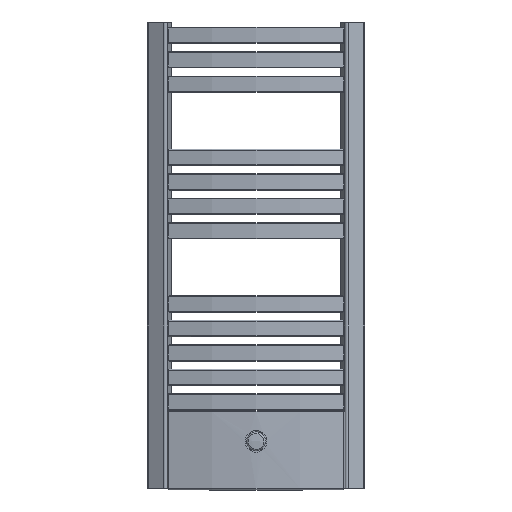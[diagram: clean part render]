
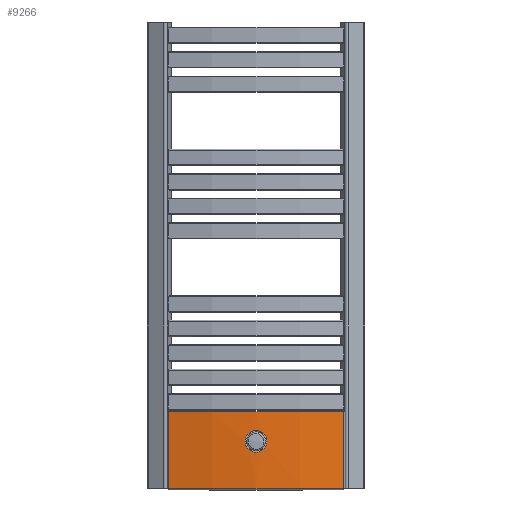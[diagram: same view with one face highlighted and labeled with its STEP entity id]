
A CAD part, front view. The second image highlights one B-rep face of the part: STEP entity #9266.
In plain terms, the highlighted cylindrical face has radius 602.649 mm (diameter 1205.3 mm), a partial arc.
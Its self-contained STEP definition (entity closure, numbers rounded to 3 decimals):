
#8084=CARTESIAN_POINT('',(-19.284,-53.248,87.5));
#8085=VERTEX_POINT('',#8084);
#8086=CARTESIAN_POINT('',(-19.284,-53.248,87.5));
#8087=CARTESIAN_POINT('',(-19.284,-53.248,88.711));
#8088=CARTESIAN_POINT('',(-19.168,-53.251,89.963));
#8089=CARTESIAN_POINT('',(-18.681,-53.267,92.455));
#8090=CARTESIAN_POINT('',(-18.309,-53.278,93.694));
#8091=CARTESIAN_POINT('',(-17.327,-53.307,96.071));
#8092=CARTESIAN_POINT('',(-16.715,-53.325,97.21));
#8093=CARTESIAN_POINT('',(-15.301,-53.362,99.318));
#8094=CARTESIAN_POINT('',(-14.499,-53.382,100.287));
#8095=CARTESIAN_POINT('',(-12.788,-53.421,102.002));
#8096=CARTESIAN_POINT('',(-11.821,-53.441,102.807));
#8097=CARTESIAN_POINT('',(-9.714,-53.479,104.227));
#8098=CARTESIAN_POINT('',(-8.575,-53.496,104.841));
#8099=CARTESIAN_POINT('',(-6.198,-53.526,105.828));
#8100=CARTESIAN_POINT('',(-4.958,-53.537,106.201));
#8101=CARTESIAN_POINT('',(-2.465,-53.553,106.69));
#8102=CARTESIAN_POINT('',(-1.212,-53.556,106.807));
#8103=CARTESIAN_POINT('',(1.212,-53.556,106.807));
#8104=CARTESIAN_POINT('',(2.465,-53.553,106.691));
#8105=CARTESIAN_POINT('',(4.957,-53.537,106.201));
#8106=CARTESIAN_POINT('',(6.196,-53.526,105.828));
#8107=CARTESIAN_POINT('',(8.572,-53.496,104.842));
#8108=CARTESIAN_POINT('',(9.711,-53.479,104.228));
#8109=CARTESIAN_POINT('',(11.818,-53.441,102.809));
#8110=CARTESIAN_POINT('',(12.785,-53.421,102.004));
#8111=CARTESIAN_POINT('',(14.496,-53.383,100.29));
#8112=CARTESIAN_POINT('',(15.299,-53.362,99.321));
#8113=CARTESIAN_POINT('',(16.714,-53.325,97.213));
#8114=CARTESIAN_POINT('',(17.326,-53.307,96.073));
#8115=CARTESIAN_POINT('',(18.309,-53.278,93.696));
#8116=CARTESIAN_POINT('',(18.68,-53.267,92.456));
#8117=CARTESIAN_POINT('',(19.168,-53.251,89.964));
#8118=CARTESIAN_POINT('',(19.284,-53.248,88.711));
#8119=CARTESIAN_POINT('',(19.284,-53.248,86.289));
#8120=CARTESIAN_POINT('',(19.168,-53.251,85.036));
#8121=CARTESIAN_POINT('',(18.68,-53.267,82.544));
#8122=CARTESIAN_POINT('',(18.309,-53.278,81.304));
#8123=CARTESIAN_POINT('',(17.326,-53.307,78.927));
#8124=CARTESIAN_POINT('',(16.714,-53.325,77.787));
#8125=CARTESIAN_POINT('',(15.299,-53.362,75.679));
#8126=CARTESIAN_POINT('',(14.496,-53.383,74.71));
#8127=CARTESIAN_POINT('',(12.785,-53.421,72.996));
#8128=CARTESIAN_POINT('',(11.818,-53.441,72.191));
#8129=CARTESIAN_POINT('',(9.711,-53.479,70.772));
#8130=CARTESIAN_POINT('',(8.572,-53.496,70.158));
#8131=CARTESIAN_POINT('',(6.196,-53.526,69.172));
#8132=CARTESIAN_POINT('',(4.957,-53.537,68.799));
#8133=CARTESIAN_POINT('',(2.465,-53.553,68.309));
#8134=CARTESIAN_POINT('',(1.212,-53.556,68.193));
#8135=CARTESIAN_POINT('',(-1.212,-53.556,68.193));
#8136=CARTESIAN_POINT('',(-2.465,-53.553,68.309));
#8137=CARTESIAN_POINT('',(-4.957,-53.537,68.799));
#8138=CARTESIAN_POINT('',(-6.196,-53.526,69.172));
#8139=CARTESIAN_POINT('',(-8.572,-53.496,70.158));
#8140=CARTESIAN_POINT('',(-9.711,-53.479,70.772));
#8141=CARTESIAN_POINT('',(-11.818,-53.441,72.191));
#8142=CARTESIAN_POINT('',(-12.785,-53.421,72.996));
#8143=CARTESIAN_POINT('',(-14.496,-53.383,74.71));
#8144=CARTESIAN_POINT('',(-15.299,-53.362,75.679));
#8145=CARTESIAN_POINT('',(-16.714,-53.325,77.787));
#8146=CARTESIAN_POINT('',(-17.326,-53.307,78.927));
#8147=CARTESIAN_POINT('',(-18.309,-53.278,81.304));
#8148=CARTESIAN_POINT('',(-18.68,-53.267,82.544));
#8149=CARTESIAN_POINT('',(-19.168,-53.251,85.036));
#8150=CARTESIAN_POINT('',(-19.284,-53.248,86.289));
#8151=CARTESIAN_POINT('',(-19.284,-53.248,87.5));
#8152=B_SPLINE_CURVE_WITH_KNOTS('',3,(#8086,#8087,#8088,#8089,#8090,#8091,#8092,#8093,#8094,#8095,#8096,#8097,#8098,#8099,#8100,#8101,#8102,#8103,#8104,#8105,#8106,#8107,#8108,#8109,#8110,#8111,#8112,#8113,#8114,#8115,#8116,#8117,#8118,#8119,#8120,#8121,#8122,#8123,#8124,#8125,#8126,#8127,#8128,#8129,#8130,#8131,#8132,#8133,#8134,#8135,#8136,#8137,#8138,#8139,#8140,#8141,#8142,#8143,#8144,#8145,#8146,#8147,#8148,#8149,#8150,#8151),.UNSPECIFIED.,.T.,.U.,(4,2,2,2,2,2,2,2,2,2,2,2,2,2,2,2,2,2,2,2,2,2,2,2,2,2,2,2,2,2,2,2,4),(0.0,0.363,0.727,1.09,1.453,1.817,2.18,2.544,2.908,3.271,3.634,3.998,4.361,4.725,5.088,5.452,5.815,6.178,6.542,6.905,7.269,7.632,7.996,8.359,8.723,9.086,9.449,9.813,10.176,10.54,10.903,11.267,11.63),.UNSPECIFIED.);
#8153=EDGE_CURVE('',#8085,#8085,#8152,.T.);
#9222=CARTESIAN_POINT('',(0.,549.092,2.));
#9223=DIRECTION('',(0.,0.,1.0));
#9224=DIRECTION('',(0.268,-0.963,0.));
#9225=AXIS2_PLACEMENT_3D('',#9222,#9223,#9224);
#9226=CYLINDRICAL_SURFACE('',#9225,602.649);
#9227=CARTESIAN_POINT('',(161.768,-31.439,0.));
#9228=VERTEX_POINT('',#9227);
#9229=CARTESIAN_POINT('',(-161.768,-31.439,0.));
#9230=VERTEX_POINT('',#9229);
#9231=CARTESIAN_POINT('',(0.,549.092,0.));
#9232=DIRECTION('',(0.0,0.0,-1.0));
#9233=DIRECTION('',(0.0,-1.0,0.0));
#9234=AXIS2_PLACEMENT_3D('',#9231,#9232,#9233);
#9235=CIRCLE('',#9234,602.649);
#9236=EDGE_CURVE('',#9228,#9230,#9235,.T.);
#9237=ORIENTED_EDGE('',*,*,#9236,.F.);
#9238=CARTESIAN_POINT('',(161.768,-31.439,142.));
#9239=VERTEX_POINT('',#9238);
#9240=CARTESIAN_POINT('',(161.768,-31.439,0.));
#9241=DIRECTION('',(0.0,0.0,1.0));
#9242=VECTOR('',#9241,142.);
#9243=LINE('',#9240,#9242);
#9244=EDGE_CURVE('',#9228,#9239,#9243,.T.);
#9245=ORIENTED_EDGE('',*,*,#9244,.T.);
#9246=CARTESIAN_POINT('',(-161.768,-31.439,142.));
#9247=VERTEX_POINT('',#9246);
#9248=CARTESIAN_POINT('',(0.,549.092,142.));
#9249=DIRECTION('',(0.0,0.0,1.0));
#9250=DIRECTION('',(0.0,-1.0,0.0));
#9251=AXIS2_PLACEMENT_3D('',#9248,#9249,#9250);
#9252=CIRCLE('',#9251,602.649);
#9253=EDGE_CURVE('',#9247,#9239,#9252,.T.);
#9254=ORIENTED_EDGE('',*,*,#9253,.F.);
#9255=CARTESIAN_POINT('',(-161.768,-31.439,0.));
#9256=DIRECTION('',(0.0,0.0,1.0));
#9257=VECTOR('',#9256,142.);
#9258=LINE('',#9255,#9257);
#9259=EDGE_CURVE('',#9230,#9247,#9258,.T.);
#9260=ORIENTED_EDGE('',*,*,#9259,.F.);
#9261=EDGE_LOOP('',(#9237,#9245,#9254,#9260));
#9262=FACE_OUTER_BOUND('',#9261,.T.);
#9263=ORIENTED_EDGE('',*,*,#8153,.T.);
#9264=EDGE_LOOP('',(#9263));
#9265=FACE_BOUND('',#9264,.T.);
#9266=ADVANCED_FACE('',(#9262,#9265),#9226,.T.);
